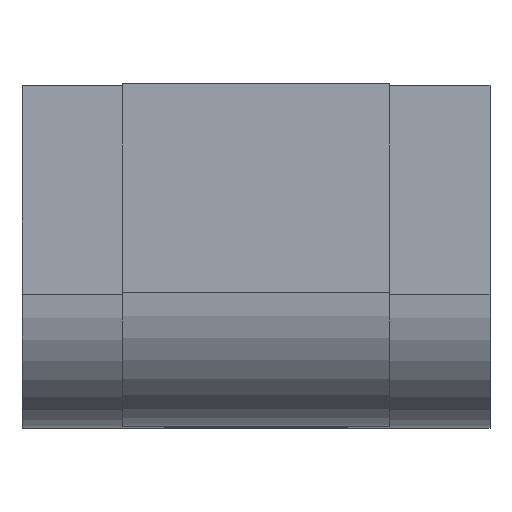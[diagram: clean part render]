
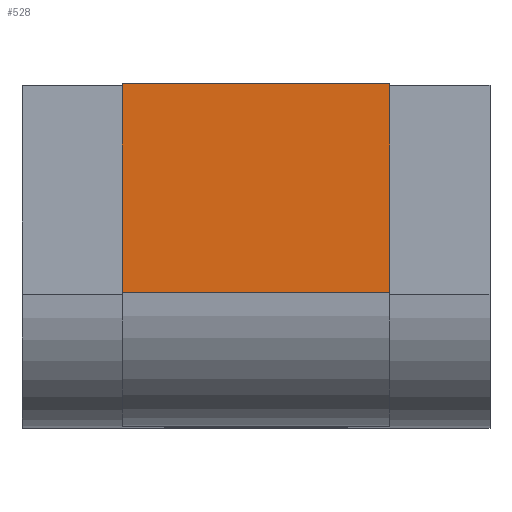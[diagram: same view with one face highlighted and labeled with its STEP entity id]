
A CAD part, top view. The second image highlights one B-rep face of the part: STEP entity #528.
In plain terms, the highlighted planar face has unit normal (0, 0, 1).
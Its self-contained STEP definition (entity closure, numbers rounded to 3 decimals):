
#41=PLANE('',#613);
#80=FACE_OUTER_BOUND('',#122,.T.);
#122=EDGE_LOOP('',(#483,#484,#485,#486));
#134=LINE('',#830,#170);
#139=LINE('',#843,#175);
#157=LINE('',#928,#193);
#159=LINE('',#931,#195);
#170=VECTOR('',#663,10.);
#175=VECTOR('',#674,10.);
#193=VECTOR('',#772,10.);
#195=VECTOR('',#776,10.);
#249=VERTEX_POINT('',#827);
#250=VERTEX_POINT('',#829);
#254=VERTEX_POINT('',#840);
#255=VERTEX_POINT('',#842);
#304=EDGE_CURVE('',#249,#250,#134,.T.);
#310=EDGE_CURVE('',#255,#254,#139,.T.);
#351=EDGE_CURVE('',#254,#250,#157,.T.);
#353=EDGE_CURVE('',#249,#255,#159,.T.);
#483=ORIENTED_EDGE('',*,*,#310,.T.);
#484=ORIENTED_EDGE('',*,*,#351,.T.);
#485=ORIENTED_EDGE('',*,*,#304,.F.);
#486=ORIENTED_EDGE('',*,*,#353,.T.);
#528=ADVANCED_FACE('',(#80),#41,.T.);
#613=AXIS2_PLACEMENT_3D('',#932,#777,#778);
#663=DIRECTION('',(0.,1.,0.));
#674=DIRECTION('',(0.,1.,0.));
#772=DIRECTION('',(-1.,0.,0.));
#776=DIRECTION('',(1.,0.,0.));
#777=DIRECTION('center_axis',(0.,0.,1.));
#778=DIRECTION('ref_axis',(0.,-1.,0.));
#827=CARTESIAN_POINT('',(-8.,575.05,-209.));
#829=CARTESIAN_POINT('',(-8.,587.55,-209.));
#830=CARTESIAN_POINT('',(-8.,582.425,-209.));
#840=CARTESIAN_POINT('',(8.,587.55,-209.));
#842=CARTESIAN_POINT('',(8.,575.05,-209.));
#843=CARTESIAN_POINT('',(8.,582.425,-209.));
#928=CARTESIAN_POINT('',(0.,587.55,-209.));
#931=CARTESIAN_POINT('',(0.,575.05,-209.));
#932=CARTESIAN_POINT('Origin',(0.,587.55,-209.));
